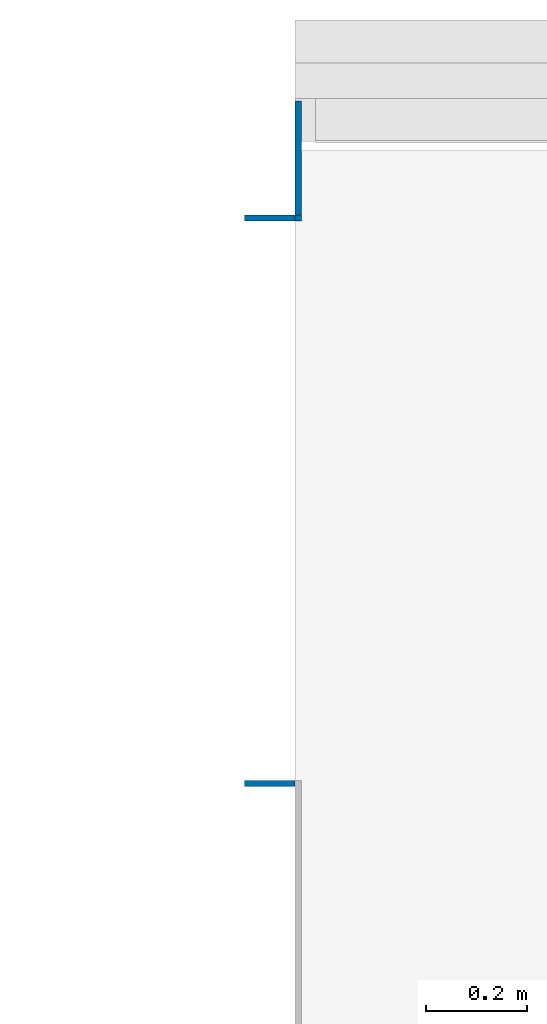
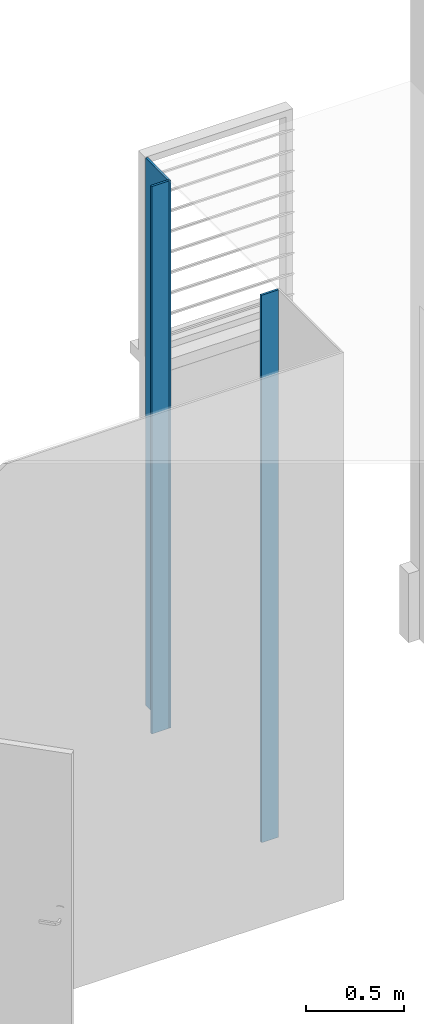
# One storey, part 7 of 18: 4 walls.
"""IFC2X3 building model written with IfcOpenShell, lengths in metres."""

import ifcopenshell
import ifcopenshell.guid

model = None  # the IFC model being written
_history = None  # IfcOwnerHistory: only IFC2X3 demands one
_inside = {}  # id of a spatial element -> (the spatial element, [elements in it])
_under = {}  # id of a project, library or spatial element -> (it, [spatial elements below it])
_declared = {}  # id of a project -> (the project, [libraries it declares])
_typed = {}  # id of a type object -> (the type object, [elements of that type])
_made_of = {}  # id of a material, layer set ... -> (it, [elements and type objects made of it])


def new_model(schema):
    """Start an empty IFC model of exactly this schema.

    Asked for "IFC4X3", IfcOpenShell would pick the latest addendum, in which some entities
    have other attributes; the version numbers below select the first issue.
    IFC2X3 requires an IfcOwnerHistory on every rooted entity: one is made here for all.
    """
    global model, _history
    if schema == "IFC4X3":
        model = ifcopenshell.file(schema_version=(4, 3, 0, 0))
    else:
        model = ifcopenshell.file(schema=schema)
    _inside.clear()
    _under.clear()
    _declared.clear()
    _typed.clear()
    _made_of.clear()
    _history = None
    if model.schema == "IFC2X3":
        org = make("IfcOrganization", Name="unknown")
        user = make(
            "IfcPersonAndOrganization",
            ThePerson=make("IfcPerson", FamilyName="unknown"),
            TheOrganization=org,
        )
        app = make(
            "IfcApplication",
            ApplicationDeveloper=org,
            Version="unknown",
            ApplicationFullName="unknown",
            ApplicationIdentifier="unknown",
        )
        _history = make(
            "IfcOwnerHistory",
            OwningUser=user,
            OwningApplication=app,
            ChangeAction="ADDED",
            CreationDate=0,
        )
    return model


def make(cls, **values):
    """One entity of the class cls with the attributes given. An attribute that is None is left unset."""
    return model.create_entity(
        cls, **{name: value for name, value in values.items() if value is not None}
    )


def entity(cls, *values):
    """Any entity or typed value of the class cls, its attributes in the order of the schema. None: left unset."""
    e = model.create_entity(cls)
    for i, value in enumerate(values):
        if value is not None:
            e[i] = value
    return e


def rooted(cls, **values):
    """An entity with a GlobalId (a new one), such as an element, a storey or a relation."""
    return make(cls, GlobalId=ifcopenshell.guid.new(), OwnerHistory=_history, **values)


def si_unit(unit_type, name, prefix=None):
    """IfcSIUnit, for example si_unit("LENGTHUNIT", "METRE", prefix="MILLI")."""
    return make("IfcSIUnit", UnitType=unit_type, Prefix=prefix, Name=name)


def converted_unit(unit_type, name, factor, base, dimensions=None, offset=None):
    """IfcConversionBasedUnit, such as the inch: factor (a typed value) times the base unit."""
    return make(
        "IfcConversionBasedUnit"
        if offset is None
        else "IfcConversionBasedUnitWithOffset",
        ConversionOffset=offset,
        Dimensions=None
        if dimensions is None
        else entity("IfcDimensionalExponents", *dimensions),
        UnitType=unit_type,
        Name=name,
        ConversionFactor=make(
            "IfcMeasureWithUnit", ValueComponent=factor, UnitComponent=base
        ),
    )


def derived_unit(unit_type, elements):
    """IfcDerivedUnit: a product of units, each with its exponent."""
    return make(
        "IfcDerivedUnit",
        Elements=[
            make("IfcDerivedUnitElement", Unit=unit, Exponent=power)
            for unit, power in elements
        ],
        UnitType=unit_type,
    )


def assignment(units):
    """IfcUnitAssignment: the units of a project."""
    return None if units is None else make("IfcUnitAssignment", Units=units)


def point(xyz):
    """IfcCartesianPoint."""
    return None if xyz is None else make("IfcCartesianPoint", Coordinates=xyz)


def direction(xyz):
    """IfcDirection."""
    return None if xyz is None else make("IfcDirection", DirectionRatios=xyz)


def frame(location, z_axis=None, x_axis=None):
    """IfcAxis2Placement3D, a coordinate frame: its origin and axes. An axis left out is left unset."""
    return make(
        "IfcAxis2Placement3D",
        Location=point(location),
        Axis=direction(z_axis),
        RefDirection=direction(x_axis),
    )


def frame_2d(location, x_axis=None):
    """IfcAxis2Placement2D, a coordinate frame in the plane: its origin and x axis."""
    return make(
        "IfcAxis2Placement2D", Location=point(location), RefDirection=direction(x_axis)
    )


def origin():
    """The frame at (0, 0, 0) with its axes left unset."""
    return frame((0.0, 0.0, 0.0))


def place(relative_to, where):
    """IfcLocalPlacement: puts the frame where relative to a parent placement (None: the world)."""
    return make(
        "IfcLocalPlacement", PlacementRelTo=relative_to, RelativePlacement=where
    )


def context(
    kind, dimensions, precision=None, world=None, true_north=None, identifier=None
):
    """IfcGeometricRepresentationContext, for example the 3D "Model" context."""
    return make(
        "IfcGeometricRepresentationContext",
        ContextIdentifier=identifier,
        ContextType=kind,
        CoordinateSpaceDimension=dimensions,
        Precision=precision,
        WorldCoordinateSystem=world,
        TrueNorth=true_north,
    )


def subcontext(parent, identifier, kind, view, scale=None):
    """IfcGeometricRepresentationSubContext, for example "Body" below "Model"."""
    return make(
        "IfcGeometricRepresentationSubContext",
        ContextIdentifier=identifier,
        ContextType=kind,
        ParentContext=parent,
        TargetScale=scale,
        TargetView=view,
    )


def project(units=None, contexts=None):
    """IfcProject with its units and contexts."""
    return rooted(
        "IfcProject",
        Name="project",
        RepresentationContexts=contexts,
        UnitsInContext=assignment(units),
    )


def spatial(cls, under=None, at=None, **own):
    """A site, building, storey or space (cls), placed at a placement, below another one or the project."""
    s = rooted(cls, ObjectPlacement=at, **own)
    if under is not None:
        _under.setdefault(under.id(), (under, []))[1].append(s)
    return s


def profile(cls, at=None, kind="AREA", **sizes):
    """A parametric profile (cls). Its sizes go by their IFC names, for example OverallWidth=200.0."""
    return make(cls, ProfileType=kind, Position=at, **sizes)


def rectangle(**sizes):
    """IfcRectangleProfileDef."""
    return profile("IfcRectangleProfileDef", **sizes)


def extrude(swept, where, along, depth):
    """IfcExtrudedAreaSolid: the profile swept, set in the frame where, extruded along a direction by depth."""
    return make(
        "IfcExtrudedAreaSolid",
        SweptArea=swept,
        Position=where,
        ExtrudedDirection=direction(along),
        Depth=depth,
    )


def shape(context_of_items, identifier, shape_type, items):
    """IfcShapeRepresentation: the items that make up one representation, for example the "Body"."""
    return make(
        "IfcShapeRepresentation",
        ContextOfItems=context_of_items,
        RepresentationIdentifier=identifier,
        RepresentationType=shape_type,
        Items=items,
    )


def material(Name=None, Category=None):
    """IfcMaterial."""
    return make("IfcMaterial", Name=Name, Category=Category)


def layer(
    of_material, thickness, ventilated=None, Name=None, Category=None, Priority=None
):
    """IfcMaterialLayer: one layer of a wall or slab, of a material (None: an air gap)."""
    return make(
        "IfcMaterialLayer",
        Material=of_material,
        LayerThickness=thickness,
        IsVentilated=ventilated,
        Name=Name,
        Category=Category,
        Priority=Priority,
    )


def layer_set(layers, Name=None):
    """IfcMaterialLayerSet."""
    return make("IfcMaterialLayerSet", MaterialLayers=layers, LayerSetName=Name)


def layer_usage(for_layer_set, set_direction, sense, offset, extent=None):
    """IfcMaterialLayerSetUsage: how a layer set lies in its element."""
    return make(
        "IfcMaterialLayerSetUsage",
        ForLayerSet=for_layer_set,
        LayerSetDirection=set_direction,
        DirectionSense=sense,
        OffsetFromReferenceLine=offset,
        ReferenceExtent=extent,
    )


def made_of(thing, what):
    """Note that an element or type object is made of a material, layer set ...; save() writes the relation."""
    if what is not None:
        _made_of.setdefault(what.id(), (what, []))[1].append(thing)
    return thing


def type_object(cls, material=None, **own):
    """A type object (cls), such as IfcWallType, which elements share."""
    return made_of(rooted(cls, **own), material)


def element(
    cls,
    number,
    at=None,
    inside=None,
    cuts=None,
    type_object=None,
    material=None,
    context=None,
    identifier="Body",
    shape_type=None,
    held_by="IfcProductDefinitionShape",
    body=None,
    shapes=None,
    **own,
):
    """One element of the class cls, such as IfcWall. Its Tag is "e" and its number.

    at: its placement. inside: the storey or other place that contains it. cuts: it is an
    opening in that element (IfcRelVoidsElement). A single representation is given by context,
    identifier, shape_type and body (its items); several are given by shapes. held_by: the class
    of the entity that holds the representations. save() writes the other relations.
    """
    e = rooted(cls, Tag="e%d" % number, ObjectPlacement=at, **own)
    if body is not None:
        shapes = [shape(context, identifier, shape_type, body)]
    if shapes is not None:
        e.Representation = make(held_by, Representations=shapes)
    if inside is not None:
        _inside.setdefault(inside.id(), (inside, []))[1].append(e)
    if cuts is not None:
        rooted(
            "IfcRelVoidsElement", RelatingBuildingElement=cuts, RelatedOpeningElement=e
        )
    if type_object is not None:
        _typed.setdefault(type_object.id(), (type_object, []))[1].append(e)
    return made_of(e, material)


def aggregate(whole, parts):
    """IfcRelAggregates: a whole, such as a stair, and the parts it consists of."""
    return rooted("IfcRelAggregates", RelatingObject=whole, RelatedObjects=parts)


def save(model, path):
    """Write the relations noted so far, then the file.

    IfcRelAggregates (storeys below a building ...), IfcRelContainedInSpatialStructure (elements
    in a storey), IfcRelDefinesByType, IfcRelAssociatesMaterial and IfcRelDeclares: one each for
    every whole, place, type object, material and project.
    """
    for whole, parts in _under.values():
        aggregate(whole, parts)
    for where, things in _inside.values():
        rooted(
            "IfcRelContainedInSpatialStructure",
            RelatedElements=things,
            RelatingStructure=where,
        )
    for kind, things in _typed.values():
        rooted("IfcRelDefinesByType", RelatedObjects=things, RelatingType=kind)
    for what, things in _made_of.values():
        rooted("IfcRelAssociatesMaterial", RelatedObjects=things, RelatingMaterial=what)
    for by, libraries in _declared.values():
        rooted("IfcRelDeclares", RelatingContext=by, RelatedDefinitions=libraries)
    model.write(path)


model = new_model("IFC2X3")

# Units and contexts
model_context = context("Model", 3, precision=1e-05, world=origin(), true_north=direction((6.12303176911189e-17, 1.0)))
body_context = subcontext(model_context, "Body", "Model", "MODEL_VIEW")
ifc_project = project(units=[si_unit("LENGTHUNIT", "METRE"), si_unit("AREAUNIT", "SQUARE_METRE"), si_unit("VOLUMEUNIT", "CUBIC_METRE"), converted_unit("PLANEANGLEUNIT", "DEGREE", entity("IfcRatioMeasure", 0.0174532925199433), si_unit("PLANEANGLEUNIT", "RADIAN"), dimensions=[0, 0, 0, 0, 0, 0, 0]), si_unit("MASSUNIT", "GRAM", prefix="KILO"), derived_unit("MASSDENSITYUNIT", [(si_unit("MASSUNIT", "GRAM", prefix="KILO"), 1), (si_unit("LENGTHUNIT", "METRE"), -3)]), si_unit("TIMEUNIT", "SECOND"), si_unit("FREQUENCYUNIT", "HERTZ"), si_unit("THERMODYNAMICTEMPERATUREUNIT", "DEGREE_CELSIUS"), derived_unit("THERMALTRANSMITTANCEUNIT", [(si_unit("MASSUNIT", "GRAM", prefix="KILO"), 1), (si_unit("THERMODYNAMICTEMPERATUREUNIT", "KELVIN"), -1), (si_unit("TIMEUNIT", "SECOND"), -3)]), derived_unit("VOLUMETRICFLOWRATEUNIT", [(si_unit("LENGTHUNIT", "METRE"), 3), (si_unit("TIMEUNIT", "SECOND"), -1)]), si_unit("ELECTRICCURRENTUNIT", "AMPERE"), si_unit("ELECTRICVOLTAGEUNIT", "VOLT"), si_unit("POWERUNIT", "WATT"), si_unit("FORCEUNIT", "NEWTON", prefix="KILO"), si_unit("ILLUMINANCEUNIT", "LUX"), si_unit("LUMINOUSFLUXUNIT", "LUMEN"), si_unit("LUMINOUSINTENSITYUNIT", "CANDELA"), derived_unit("USERDEFINED", [(si_unit("MASSUNIT", "GRAM", prefix="KILO"), -1), (si_unit("LENGTHUNIT", "METRE"), -2), (si_unit("TIMEUNIT", "SECOND"), 3), (si_unit("LUMINOUSFLUXUNIT", "LUMEN"), 1)]), derived_unit("LINEARVELOCITYUNIT", [(si_unit("LENGTHUNIT", "METRE"), 1), (si_unit("TIMEUNIT", "SECOND"), -1)]), si_unit("PRESSUREUNIT", "PASCAL"), derived_unit("USERDEFINED", [(si_unit("LENGTHUNIT", "METRE"), -2), (si_unit("MASSUNIT", "GRAM", prefix="KILO"), 1), (si_unit("TIMEUNIT", "SECOND"), -2)])], contexts=[model_context])

# Site, building, storey
site_placement = place(None, origin())
site = spatial("IfcSite", under=ifc_project, at=site_placement, Name="Surface", CompositionType="ELEMENT")
building_placement = place(site_placement, origin())
building = spatial("IfcBuilding", under=site, at=building_placement, Name="ExPREF", CompositionType="ELEMENT")
storey_placement = place(building_placement, frame((0.0, 0.0, -4.62)))
storey = spatial("IfcBuildingStorey", under=building, at=storey_placement, Name="R-1", CompositionType="ELEMENT", Elevation=-4.62)

# Walls
ifc_material = material(Name="AA-fermacell peint")
ifc_layer = layer(ifc_material, 0.0125)
ifc_layer_set = layer_set([ifc_layer], Name="Mur de base:A-plaque FC")
ifc_layer_usage_1 = layer_usage(ifc_layer_set, "AXIS2", "NEGATIVE", 0.00625)
wall_type = type_object("IfcWallType", Name="Mur de base:A-plaque FC", PredefinedType="STANDARD", material=ifc_layer_set)
wall_1_placement = place(storey_placement, frame((47.949743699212, -186.465238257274, 0.0), z_axis=(0.0, 0.0, 1.0), x_axis=(-1.0, 0.0, 0.0)))
element("IfcWallStandardCase", 1, at=wall_1_placement, inside=storey, type_object=wall_type, material=ifc_layer_usage_1, Name="Mur de base:A-plaque FC", ObjectType="Mur de base:A-plaque FC", context=body_context, shape_type="SweptSolid", body=[
    extrude(rectangle(XDim=0.100000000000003, YDim=0.0125000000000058, at=frame_2d((0.0500000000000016, 0.0), x_axis=(-1.0, 0.0))), origin(), (0.0, 0.0, 1.0), 3.41),
])
ifc_layer_usage_2 = layer_usage(ifc_layer_set, "AXIS2", "NEGATIVE", 0.00625)
wall_2_placement = place(storey_placement, frame((47.949743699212, -185.347738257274, 0.0)))
element("IfcWallStandardCase", 2, at=wall_2_placement, inside=storey, type_object=wall_type, material=ifc_layer_usage_2, Name="Mur de base:A-plaque FC", ObjectType="Mur de base:A-plaque FC", context=body_context, shape_type="SweptSolid", body=[
    extrude(rectangle(XDim=0.0124999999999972, YDim=0.0125000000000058, at=frame_2d((0.00624999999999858, 0.0), x_axis=(-1.0, 0.0))), origin(), (0.0, 0.0, 1.0), 3.41),
])
ifc_layer_usage_3 = layer_usage(ifc_layer_set, "AXIS2", "NEGATIVE", 0.00625)
wall_3_placement = place(storey_placement, frame((47.955993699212, -185.341488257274, 0.0), z_axis=(0.0, 0.0, 1.0), x_axis=(0.0, 1.0, 0.0)))
element("IfcWallStandardCase", 3, at=wall_3_placement, inside=storey, type_object=wall_type, material=ifc_layer_usage_3, Name="Mur de base:A-plaque FC", ObjectType="Mur de base:A-plaque FC", context=body_context, shape_type="SweptSolid", body=[
    extrude(rectangle(XDim=0.224999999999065, YDim=0.0125000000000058, at=frame_2d((0.112499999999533, 0.0), x_axis=(-1.0, 0.0))), origin(), (0.0, 0.0, 1.0), 3.41),
])
ifc_layer_usage_4 = layer_usage(ifc_layer_set, "AXIS2", "POSITIVE", -0.00625)
wall_4_placement = place(storey_placement, frame((47.949743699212, -185.347738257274, 0.0), z_axis=(0.0, 0.0, 1.0), x_axis=(-1.0, 0.0, 0.0)))
element("IfcWallStandardCase", 4, at=wall_4_placement, inside=storey, type_object=wall_type, material=ifc_layer_usage_4, Name="Mur de base:A-plaque FC", ObjectType="Mur de base:A-plaque FC", context=body_context, shape_type="SweptSolid", body=[
    extrude(rectangle(XDim=0.100000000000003, YDim=0.0125000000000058, at=frame_2d((0.0500000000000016, 0.0), x_axis=(-1.0, 0.0))), origin(), (0.0, 0.0, 1.0), 3.41),
])

save(model, "model.ifc")
